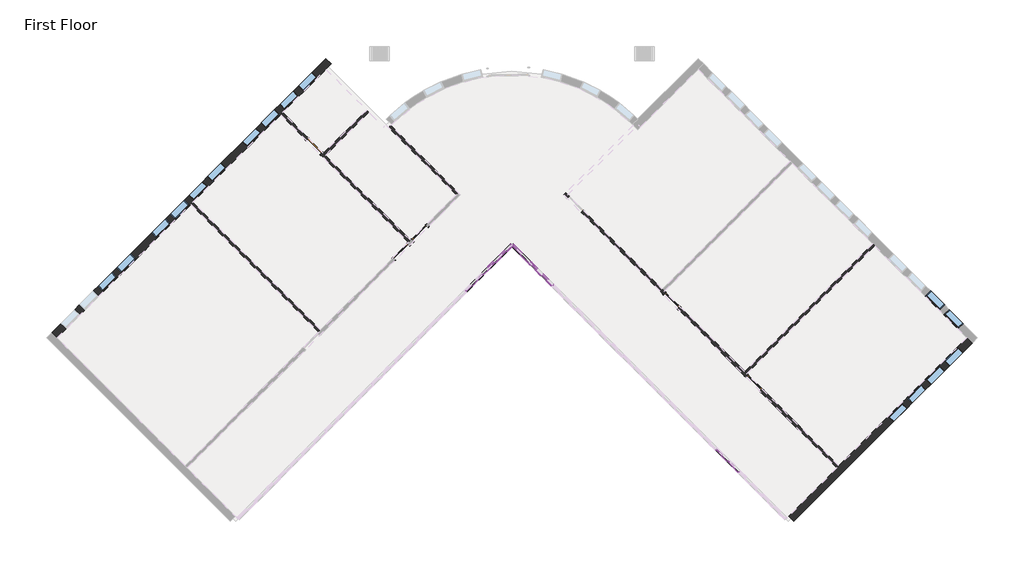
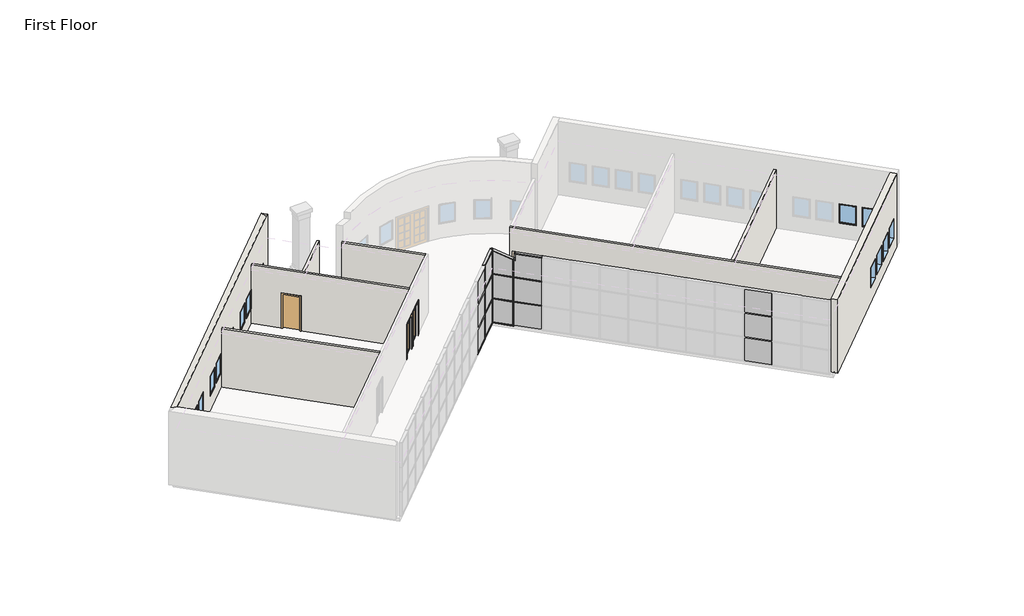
# One storey, part 3 of 4: 26 members, 16 windows, 15 plates, 8 walls, 5 doors.
"""IFC4 building model written with IfcOpenShell, lengths in millimetres."""

from ifc_helpers import new_model, si_unit, point, frame_2d, origin, origin_with_axes, place, context, project, spatial, polyline, circle_curve, trimmed, segment, composite_curve, outline, extrude, faceted_brep, transform, mapped, element, save
from components import m_single_flush_0915_x_2134mm_83e8e835, m_single_glass_1_0915_x_2134mm_fb3287b7, m_single_glass_1_0915_x_2134mm_4e5e1233, rectangular_mullion_50_x_150mm_339d4f99, rectangular_mullion_50_x_150mm_40297ad3, rectangular_mullion_50_x_150mm_ccbf48d0, rectangular_mullion_50_x_150mm_f494fff1, rectangular_mullion_50_x_150mm_97ff1a0c, rectangular_mullion_50_x_150mm_5da8f88f, rectangular_mullion_50_x_150mm_a1635f5b, rectangular_mullion_50_x_150mm_6261b450, rectangular_mullion_50_x_150mm_c13bad7a, rectangular_mullion_50_x_150mm_4d330a12, rectangular_mullion_50_x_150mm_3c20ccb2, rectangular_mullion_50_x_150mm_93975400, rectangular_mullion_50_x_150mm_0940c479, rectangular_mullion_50_x_150mm_75e70a66, rectangular_mullion_50_x_150mm_96b90bf1, rectangular_mullion_50_x_150mm_4247da93, system_panel_glazed_62d989f2, system_panel_glazed_a417ca2b, system_panel_glazed_b8bd361a, system_panel_glazed_7c4ff273, system_panel_glazed_0df73d5a, system_panel_glazed_71216330, system_panel_solid_0812dcd2, system_panel_solid_7096e89f, system_panel_solid_a570f427, system_panel_solid_49db0aee, system_panel_solid_a9fdfe61, m_fixed_0915_x_1220mm_bde29121, m_fixed_0915_x_1220mm_2a2509e7

model = new_model("IFC4")

# Units and contexts
model_context = context("Model", 3, world=origin())
ifc_project = project(units=[si_unit("LENGTHUNIT", "METRE", prefix="MILLI")], contexts=[model_context])

# Site, building, storey
site = spatial("IfcSite", under=ifc_project)
building = spatial("IfcBuilding", under=site)
storey = spatial("IfcBuildingStorey", under=building, Name="First Floor", Elevation=0.0)

# Doors
placement = place(None, origin())
m_single_flush_0915_x_2134mm_shape = m_single_flush_0915_x_2134mm_83e8e835(model_context)
element("IfcDoor", 1, ObjectType="M_Single-Flush : 0915 x 2134mm", at=placement, inside=storey, context=model_context, shape_type="MappedRepresentation", body=[
    mapped(m_single_flush_0915_x_2134mm_shape, transform((-10762.6979297, 6563.7995594, 0.0), x_axis=(0.7071067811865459, -0.7071067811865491, 0.0), y_axis=(0.7071067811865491, 0.7071067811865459, 0.0), z_axis=(0.0, 0.0, 1.0))),
])
m_single_glass_1_0915_x_2134mm_shape = m_single_glass_1_0915_x_2134mm_fb3287b7(model_context)
element("IfcDoor", 2, ObjectType="M_Single-Glass 1 : 0915 x 2134mm", at=placement, inside=storey, context=model_context, shape_type="MappedRepresentation", body=[
    mapped(m_single_glass_1_0915_x_2134mm_shape, transform((-6731.4821701, 1669.9135268, 0.0), x_axis=(0.7071067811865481, 0.7071067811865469, 0.0), y_axis=(-0.7071067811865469, 0.7071067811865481, 0.0), z_axis=(0.0, 0.0, 1.0))),
])
m_single_glass_1_0915_x_2134mm_2_shape = m_single_glass_1_0915_x_2134mm_4e5e1233(model_context)
element("IfcDoor", 3, ObjectType="M_Single-Glass 1 : 0915 x 2134mm", at=placement, inside=storey, context=model_context, shape_type="MappedRepresentation", body=[
    mapped(m_single_glass_1_0915_x_2134mm_2_shape, transform((-5868.8118971, 2532.5837999, 0.0), x_axis=(-0.7071067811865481, -0.7071067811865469, 0.0), y_axis=(0.7071067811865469, -0.7071067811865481, 0.0), z_axis=(0.0, 0.0, 1.0))),
])
element("IfcDoor", 4, ObjectType="M_Single-Glass 1 : 0915 x 2134mm", at=placement, inside=storey, context=model_context, shape_type="MappedRepresentation", body=[
    mapped(m_single_glass_1_0915_x_2134mm_2_shape, transform((5790.8485946, -591.9442895, 0.0), x_axis=(-0.7071067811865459, 0.7071067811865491, 0.0), y_axis=(-0.7071067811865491, -0.7071067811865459, 0.0), z_axis=(0.0, 0.0, 1.0))),
])
element("IfcDoor", 5, ObjectType="M_Single-Glass 1 : 0915 x 2134mm", at=placement, inside=storey, context=model_context, shape_type="MappedRepresentation", body=[
    mapped(m_single_glass_1_0915_x_2134mm_2_shape, transform((9606.3967859, -4407.4924808, 0.0), x_axis=(-0.7071067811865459, 0.7071067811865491, 0.0), y_axis=(-0.7071067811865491, -0.7071067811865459, 0.0), z_axis=(0.0, 0.0, 1.0))),
])

# Members
rectangular_mullion_50_x_150mm_shape = rectangular_mullion_50_x_150mm_339d4f99(model_context)
element("IfcMember", 6, ObjectType="Rectangular Mullion : 50 x 150mm", at=placement, inside=storey, context=model_context, shape_type="MappedRepresentation", body=[
    mapped(rectangular_mullion_50_x_150mm_shape, transform((-1636.601035, 1959.296977, 0.0), x_axis=(0.0, 0.0, -1.0), y_axis=(-0.7071067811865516, 0.7071067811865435, 0.0), z_axis=(0.7071067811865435, 0.7071067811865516, 0.0))),
])
rectangular_mullion_50_x_150mm_2_shape = rectangular_mullion_50_x_150mm_40297ad3(model_context)
element("IfcMember", 7, ObjectType="Rectangular Mullion : 50 x 150mm", at=placement, inside=storey, context=model_context, shape_type="MappedRepresentation", body=[
    mapped(rectangular_mullion_50_x_150mm_2_shape, transform((-2678.8764304, 917.0215815, 0.0), x_axis=(-0.7071067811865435, -0.7071067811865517, 0.0), y_axis=(-0.7071067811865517, 0.7071067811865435, 0.0), z_axis=(0.0, 0.0, -1.0))),
])
element("IfcMember", 8, ObjectType="Rectangular Mullion : 50 x 150mm", at=placement, inside=storey, context=model_context, shape_type="MappedRepresentation", body=[
    mapped(rectangular_mullion_50_x_150mm_2_shape, transform((-771.1023348, 1164.508955, 0.0), x_axis=(-0.7071067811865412, 0.7071067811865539, 0.0), y_axis=(0.7071067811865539, 0.7071067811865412, 0.0), z_axis=(0.0, 0.0, -1.0))),
])
rectangular_mullion_50_x_150mm_3_shape = rectangular_mullion_50_x_150mm_ccbf48d0(model_context)
element("IfcMember", 9, ObjectType="Rectangular Mullion : 50 x 150mm", at=placement, inside=storey, context=model_context, shape_type="MappedRepresentation", body=[
    mapped(rectangular_mullion_50_x_150mm_3_shape, transform((-2661.1987609, 934.6992511, 1524.0), x_axis=(0.0, 0.0, 1.0), y_axis=(-0.7071067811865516, 0.7071067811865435, 0.0), z_axis=(-0.7071067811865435, -0.7071067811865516, 0.0))),
])
element("IfcMember", 10, ObjectType="Rectangular Mullion : 50 x 150mm", at=placement, inside=storey, context=model_context, shape_type="MappedRepresentation", body=[
    mapped(rectangular_mullion_50_x_150mm_3_shape, transform((-2661.1987609, 934.6992511, 3048.0), x_axis=(0.0, 0.0, 1.0), y_axis=(-0.7071067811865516, 0.7071067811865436, 0.0), z_axis=(-0.7071067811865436, -0.7071067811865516, 0.0))),
])
rectangular_mullion_50_x_150mm_4_shape = rectangular_mullion_50_x_150mm_f494fff1(model_context)
element("IfcMember", 11, ObjectType="Rectangular Mullion : 50 x 150mm", at=placement, inside=storey, context=model_context, shape_type="MappedRepresentation", body=[
    mapped(rectangular_mullion_50_x_150mm_4_shape, transform((-753.4246653, 1146.8312854, 1524.0), x_axis=(0.0, 0.0, 1.0), y_axis=(0.7071067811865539, 0.7071067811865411, 0.0), z_axis=(-0.7071067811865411, 0.7071067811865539, 0.0))),
])
element("IfcMember", 12, ObjectType="Rectangular Mullion : 50 x 150mm", at=placement, inside=storey, context=model_context, shape_type="MappedRepresentation", body=[
    mapped(rectangular_mullion_50_x_150mm_4_shape, transform((-753.4246653, 1146.8312854, 3048.0), x_axis=(0.0, 0.0, 1.0), y_axis=(0.7071067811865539, 0.7071067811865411, 0.0), z_axis=(-0.7071067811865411, 0.7071067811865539, 0.0))),
])
rectangular_mullion_50_x_150mm_5_shape = rectangular_mullion_50_x_150mm_97ff1a0c(model_context)
element("IfcMember", 13, ObjectType="Rectangular Mullion : 50 x 150mm", at=placement, inside=storey, context=model_context, shape_type="MappedRepresentation", body=[
    mapped(rectangular_mullion_50_x_150mm_5_shape, transform((-1565.8903569, 1959.296977, 1524.0), x_axis=(0.0, 0.0, 1.0), y_axis=(0.707106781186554, 0.7071067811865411, 0.0), z_axis=(-0.7071067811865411, 0.707106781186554, 0.0))),
])
element("IfcMember", 14, ObjectType="Rectangular Mullion : 50 x 150mm", at=placement, inside=storey, context=model_context, shape_type="MappedRepresentation", body=[
    mapped(rectangular_mullion_50_x_150mm_5_shape, transform((-1565.8903569, 1959.296977, 3048.0), x_axis=(0.0, 0.0, 1.0), y_axis=(0.707106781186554, 0.7071067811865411, 0.0), z_axis=(-0.7071067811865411, 0.707106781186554, 0.0))),
])
rectangular_mullion_50_x_150mm_6_shape = rectangular_mullion_50_x_150mm_5da8f88f(model_context)
element("IfcMember", 15, ObjectType="Rectangular Mullion : 50 x 150mm", at=placement, inside=storey, context=model_context, shape_type="MappedRepresentation", body=[
    mapped(rectangular_mullion_50_x_150mm_6_shape, transform((-2696.5541, 899.343912, 0.0), x_axis=(0.0, 0.0, -1.0), y_axis=(-0.7071067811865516, 0.7071067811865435, 0.0), z_axis=(0.7071067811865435, 0.7071067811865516, 0.0))),
])
rectangular_mullion_50_x_150mm_7_shape = rectangular_mullion_50_x_150mm_a1635f5b(model_context)
element("IfcMember", 16, ObjectType="Rectangular Mullion : 50 x 150mm", at=placement, inside=storey, context=model_context, shape_type="MappedRepresentation", body=[
    mapped(rectangular_mullion_50_x_150mm_7_shape, transform((-788.7800043, 1182.1866245, 0.0), x_axis=(0.0, 0.0, -1.0), y_axis=(0.707106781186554, 0.707106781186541, 0.0), z_axis=(0.707106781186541, -0.707106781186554, 0.0))),
])
element("IfcMember", 17, ObjectType="Rectangular Mullion : 50 x 150mm", at=placement, inside=storey, context=model_context, shape_type="MappedRepresentation", body=[
    mapped(rectangular_mullion_50_x_150mm_shape, transform((-2661.1987609, 934.6992511, 4571.7250795), x_axis=(0.0, 0.0, 1.0), y_axis=(-0.7071067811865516, 0.7071067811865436, 0.0), z_axis=(-0.7071067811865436, -0.7071067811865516, 0.0))),
])
element("IfcMember", 18, ObjectType="Rectangular Mullion : 50 x 150mm", at=placement, inside=storey, context=model_context, shape_type="MappedRepresentation", body=[
    mapped(rectangular_mullion_50_x_150mm_2_shape, transform((-2678.8764304, 917.0215815, 1524.0), x_axis=(-0.7071067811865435, -0.7071067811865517, 0.0), y_axis=(-0.7071067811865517, 0.7071067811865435, 0.0), z_axis=(0.0, 0.0, -1.0))),
])
element("IfcMember", 19, ObjectType="Rectangular Mullion : 50 x 150mm", at=placement, inside=storey, context=model_context, shape_type="MappedRepresentation", body=[
    mapped(rectangular_mullion_50_x_150mm_2_shape, transform((-771.1023348, 1164.508955, 1524.0), x_axis=(-0.7071067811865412, 0.7071067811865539, 0.0), y_axis=(0.7071067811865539, 0.7071067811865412, 0.0), z_axis=(0.0, 0.0, -1.0))),
])
rectangular_mullion_50_x_150mm_8_shape = rectangular_mullion_50_x_150mm_6261b450(model_context)
element("IfcMember", 20, ObjectType="Rectangular Mullion : 50 x 150mm", at=placement, inside=storey, context=model_context, shape_type="MappedRepresentation", body=[
    mapped(rectangular_mullion_50_x_150mm_8_shape, transform((-2678.8764304, 917.0215815, 3048.0), x_axis=(-0.7071067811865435, -0.7071067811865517, 0.0), y_axis=(-0.7071067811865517, 0.7071067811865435, 0.0), z_axis=(0.0, 0.0, -1.0))),
])
rectangular_mullion_50_x_150mm_9_shape = rectangular_mullion_50_x_150mm_c13bad7a(model_context)
element("IfcMember", 21, ObjectType="Rectangular Mullion : 50 x 150mm", at=placement, inside=storey, context=model_context, shape_type="MappedRepresentation", body=[
    mapped(rectangular_mullion_50_x_150mm_9_shape, transform((-1601.2456959, 1994.6523161, 4571.7250795), x_axis=(0.7071067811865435, 0.7071067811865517, 0.0), y_axis=(-0.7071067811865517, 0.7071067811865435, 0.0), z_axis=(0.0, 0.0, 1.0))),
])
rectangular_mullion_50_x_150mm_10_shape = rectangular_mullion_50_x_150mm_4d330a12(model_context)
element("IfcMember", 22, ObjectType="Rectangular Mullion : 50 x 150mm", at=placement, inside=storey, context=model_context, shape_type="MappedRepresentation", body=[
    mapped(rectangular_mullion_50_x_150mm_10_shape, transform((-1601.2456959, 1994.6523161, 0.0), x_axis=(-0.7071067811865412, 0.7071067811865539, 0.0), y_axis=(0.7071067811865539, 0.7071067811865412, 0.0), z_axis=(0.0, 0.0, -1.0))),
])
element("IfcMember", 23, ObjectType="Rectangular Mullion : 50 x 150mm", at=placement, inside=storey, context=model_context, shape_type="MappedRepresentation", body=[
    mapped(rectangular_mullion_50_x_150mm_10_shape, transform((-1601.2456959, 1994.6523161, 1524.0), x_axis=(-0.7071067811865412, 0.7071067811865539, 0.0), y_axis=(0.7071067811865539, 0.7071067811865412, 0.0), z_axis=(0.0, 0.0, -1.0))),
])
element("IfcMember", 24, ObjectType="Rectangular Mullion : 50 x 150mm", at=placement, inside=storey, context=model_context, shape_type="MappedRepresentation", body=[
    mapped(rectangular_mullion_50_x_150mm_10_shape, transform((-1601.2456959, 1994.6523161, 1524.0), x_axis=(0.7071067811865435, 0.7071067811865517, 0.0), y_axis=(-0.7071067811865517, 0.7071067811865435, 0.0), z_axis=(0.0, 0.0, 1.0))),
])
element("IfcMember", 25, ObjectType="Rectangular Mullion : 50 x 150mm", at=placement, inside=storey, context=model_context, shape_type="MappedRepresentation", body=[
    mapped(rectangular_mullion_50_x_150mm_10_shape, transform((-1601.2456959, 1994.6523161, 3048.0), x_axis=(0.7071067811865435, 0.7071067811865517, 0.0), y_axis=(-0.7071067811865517, 0.7071067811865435, 0.0), z_axis=(0.0, 0.0, 1.0))),
])
rectangular_mullion_50_x_150mm_11_shape = rectangular_mullion_50_x_150mm_3c20ccb2(model_context)
element("IfcMember", 26, ObjectType="Rectangular Mullion : 50 x 150mm", at=placement, inside=storey, context=model_context, shape_type="MappedRepresentation", body=[
    mapped(rectangular_mullion_50_x_150mm_11_shape, transform((-703.2200838, 1096.626704, 4572.0), x_axis=(0.0, 0.0, 1.0), y_axis=(0.7071067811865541, 0.7071067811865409, 0.0), z_axis=(-0.7071067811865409, 0.7071067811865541, 0.0))),
])
rectangular_mullion_50_x_150mm_12_shape = rectangular_mullion_50_x_150mm_93975400(model_context)
element("IfcMember", 27, ObjectType="Rectangular Mullion : 50 x 150mm", at=placement, inside=storey, context=model_context, shape_type="MappedRepresentation", body=[
    mapped(rectangular_mullion_50_x_150mm_12_shape, transform((-738.5754229, 1131.982043, 4165.1754932), x_axis=(-0.7071067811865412, 0.7071067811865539, 0.0), y_axis=(0.7071067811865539, 0.7071067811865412, 0.0), z_axis=(0.0, 0.0, -1.0))),
])
rectangular_mullion_50_x_150mm_13_shape = rectangular_mullion_50_x_150mm_0940c479(model_context)
element("IfcMember", 28, ObjectType="Rectangular Mullion : 50 x 150mm", at=placement, inside=storey, context=model_context, shape_type="MappedRepresentation", body=[
    mapped(rectangular_mullion_50_x_150mm_13_shape, transform((-1601.2456959, 1994.6523161, 4571.7250795), x_axis=(0.2235488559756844, -0.2235488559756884, 0.9487106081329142), y_axis=(0.707106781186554, 0.7071067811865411, 0.0), z_axis=(-0.6708397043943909, 0.6708397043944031, 0.3161458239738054))),
])
rectangular_mullion_50_x_150mm_14_shape = rectangular_mullion_50_x_150mm_75e70a66(model_context)
element("IfcMember", 29, ObjectType="Rectangular Mullion : 50 x 150mm", at=placement, inside=storey, context=model_context, shape_type="MappedRepresentation", body=[
    mapped(rectangular_mullion_50_x_150mm_14_shape, transform((-771.1023348, 1164.508955, 4180.504412), x_axis=(0.2235488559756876, -0.2235488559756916, 0.9487106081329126), y_axis=(0.7071067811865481, 0.7071067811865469, 0.0), z_axis=(-0.6708397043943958, 0.6708397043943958, 0.3161458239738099))),
])
rectangular_mullion_50_x_150mm_15_shape = rectangular_mullion_50_x_150mm_96b90bf1(model_context)
element("IfcMember", 30, ObjectType="Rectangular Mullion : 50 x 150mm", at=placement, inside=storey, context=model_context, shape_type="MappedRepresentation", body=[
    mapped(rectangular_mullion_50_x_150mm_15_shape, transform((-771.1023348, 1164.508955, 3048.0), x_axis=(-0.7071067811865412, 0.7071067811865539, 0.0), y_axis=(0.7071067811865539, 0.7071067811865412, 0.0), z_axis=(0.0, 0.0, -1.0))),
])
rectangular_mullion_50_x_150mm_16_shape = rectangular_mullion_50_x_150mm_4247da93(model_context)
element("IfcMember", 31, ObjectType="Rectangular Mullion : 50 x 150mm", at=placement, inside=storey, context=model_context, shape_type="MappedRepresentation", body=[
    mapped(rectangular_mullion_50_x_150mm_16_shape, transform((-1601.2456959, 1994.6523161, 3048.0), x_axis=(-0.7071067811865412, 0.7071067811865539, 0.0), y_axis=(0.7071067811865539, 0.7071067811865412, 0.0), z_axis=(0.0, 0.0, -1.0))),
])

# Plates
system_panel_glazed_shape = system_panel_glazed_62d989f2(model_context)
element("IfcPlate", 32, ObjectType="System Panel : Glazed", at=placement, inside=storey, context=model_context, shape_type="MappedRepresentation", body=[
    mapped(system_panel_glazed_shape, transform((-2148.8998979, 1446.998114, 50.0), x_axis=(-0.7071067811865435, -0.7071067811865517, 0.0), y_axis=(0.7071067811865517, -0.7071067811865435, 0.0), z_axis=(0.0, 0.0, 1.0))),
])
system_panel_glazed_2_shape = system_panel_glazed_a417ca2b(model_context)
element("IfcPlate", 33, ObjectType="System Panel : Glazed", at=placement, inside=storey, context=model_context, shape_type="MappedRepresentation", body=[
    mapped(system_panel_glazed_2_shape, transform((8388.7589087, -7995.3522885, 50.0), x_axis=(-0.7071067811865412, 0.7071067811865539, 0.0), y_axis=(-0.7071067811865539, -0.7071067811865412, 0.0), z_axis=(0.0, 0.0, 1.0))),
])
element("IfcPlate", 34, ObjectType="System Panel : Glazed", at=placement, inside=storey, context=model_context, shape_type="MappedRepresentation", body=[
    mapped(system_panel_glazed_2_shape, transform((-3217.6917977, 378.2062143, 50.0), x_axis=(-0.7071067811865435, -0.7071067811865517, 0.0), y_axis=(0.7071067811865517, -0.7071067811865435, 0.0), z_axis=(0.0, 0.0, 1.0))),
])
element("IfcPlate", 35, ObjectType="System Panel : Glazed", at=placement, inside=storey, context=model_context, shape_type="MappedRepresentation", body=[
    mapped(system_panel_glazed_2_shape, transform((-232.2869675, 625.6935877, 50.0), x_axis=(-0.7071067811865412, 0.7071067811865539, 0.0), y_axis=(-0.7071067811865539, -0.7071067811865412, 0.0), z_axis=(0.0, 0.0, 1.0))),
])
system_panel_glazed_3_shape = system_panel_glazed_b8bd361a(model_context)
element("IfcPlate", 36, ObjectType="System Panel : Glazed", at=placement, inside=storey, context=model_context, shape_type="MappedRepresentation", body=[
    mapped(system_panel_glazed_3_shape, transform((-2148.8998979, 1446.998114, 1549.0), x_axis=(-0.7071067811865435, -0.7071067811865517, 0.0), y_axis=(0.7071067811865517, -0.7071067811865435, 0.0), z_axis=(0.0, 0.0, 1.0))),
])
system_panel_glazed_4_shape = system_panel_glazed_7c4ff273(model_context)
element("IfcPlate", 37, ObjectType="System Panel : Glazed", at=placement, inside=storey, context=model_context, shape_type="MappedRepresentation", body=[
    mapped(system_panel_glazed_4_shape, transform((8388.7589087, -7995.3522885, 1549.0), x_axis=(-0.7071067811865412, 0.7071067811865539, 0.0), y_axis=(-0.7071067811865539, -0.7071067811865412, 0.0), z_axis=(0.0, 0.0, 1.0))),
])
element("IfcPlate", 38, ObjectType="System Panel : Glazed", at=placement, inside=storey, context=model_context, shape_type="MappedRepresentation", body=[
    mapped(system_panel_glazed_4_shape, transform((-3217.6917977, 378.2062143, 1549.0), x_axis=(-0.7071067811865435, -0.7071067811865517, 0.0), y_axis=(0.7071067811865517, -0.7071067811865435, 0.0), z_axis=(0.0, 0.0, 1.0))),
])
element("IfcPlate", 39, ObjectType="System Panel : Glazed", at=placement, inside=storey, context=model_context, shape_type="MappedRepresentation", body=[
    mapped(system_panel_glazed_4_shape, transform((-232.2869675, 625.6935877, 1549.0), x_axis=(-0.7071067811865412, 0.7071067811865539, 0.0), y_axis=(-0.7071067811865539, -0.7071067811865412, 0.0), z_axis=(0.0, 0.0, 1.0))),
])
system_panel_glazed_5_shape = system_panel_glazed_0df73d5a(model_context)
element("IfcPlate", 40, ObjectType="System Panel : Glazed", at=placement, inside=storey, context=model_context, shape_type="MappedRepresentation", body=[
    mapped(system_panel_glazed_5_shape, transform((-1177.3351806, 1570.7418008, 50.0), x_axis=(-0.7071067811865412, 0.7071067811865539, 0.0), y_axis=(-0.7071067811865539, -0.7071067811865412, 0.0), z_axis=(0.0, 0.0, 1.0))),
])
system_panel_glazed_6_shape = system_panel_glazed_71216330(model_context)
element("IfcPlate", 41, ObjectType="System Panel : Glazed", at=placement, inside=storey, context=model_context, shape_type="MappedRepresentation", body=[
    mapped(system_panel_glazed_6_shape, transform((-1177.3351806, 1570.7418008, 1549.0), x_axis=(-0.7071067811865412, 0.7071067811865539, 0.0), y_axis=(-0.7071067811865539, -0.7071067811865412, 0.0), z_axis=(0.0, 0.0, 1.0))),
])
system_panel_solid_shape = system_panel_solid_0812dcd2(model_context)
element("IfcPlate", 42, ObjectType="System Panel : Solid", at=placement, inside=storey, context=model_context, shape_type="MappedRepresentation", body=[
    mapped(system_panel_solid_shape, transform((-2148.8998979, 1446.998114, 3073.0), x_axis=(-0.7071067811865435, -0.7071067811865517, 0.0), y_axis=(0.7071067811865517, -0.7071067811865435, 0.0), z_axis=(0.0, 0.0, 1.0))),
])
system_panel_solid_2_shape = system_panel_solid_7096e89f(model_context)
element("IfcPlate", 43, ObjectType="System Panel : Solid", at=placement, inside=storey, context=model_context, shape_type="MappedRepresentation", body=[
    mapped(system_panel_solid_2_shape, transform((-3217.6917977, 378.2062143, 3073.0), x_axis=(-0.7071067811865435, -0.7071067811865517, 0.0), y_axis=(0.7071067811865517, -0.7071067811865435, 0.0), z_axis=(0.0, 0.0, 1.0))),
])
system_panel_solid_3_shape = system_panel_solid_a570f427(model_context)
element("IfcPlate", 44, ObjectType="System Panel : Solid", at=placement, inside=storey, context=model_context, shape_type="MappedRepresentation", body=[
    mapped(system_panel_solid_3_shape, transform((8388.7589087, -7995.3522885, 3073.0), x_axis=(-0.7071067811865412, 0.7071067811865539, 0.0), y_axis=(-0.7071067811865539, -0.7071067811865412, 0.0), z_axis=(0.0, 0.0, 1.0))),
])
system_panel_solid_4_shape = system_panel_solid_49db0aee(model_context)
element("IfcPlate", 45, ObjectType="System Panel : Solid", at=placement, inside=storey, context=model_context, shape_type="MappedRepresentation", body=[
    mapped(system_panel_solid_4_shape, transform((-232.2869675, 625.6935877, 3073.0), x_axis=(-0.7071067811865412, 0.7071067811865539, 0.0), y_axis=(-0.7071067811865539, -0.7071067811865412, 0.0), z_axis=(0.0, 0.0, 1.0))),
])
system_panel_solid_5_shape = system_panel_solid_a9fdfe61(model_context)
element("IfcPlate", 46, ObjectType="System Panel : Solid", at=placement, inside=storey, context=model_context, shape_type="MappedRepresentation", body=[
    mapped(system_panel_solid_5_shape, transform((-1177.3351806, 1570.7418008, 3073.0), x_axis=(-0.7071067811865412, 0.7071067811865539, 0.0), y_axis=(-0.7071067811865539, -0.7071067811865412, 0.0), z_axis=(0.0, 0.0, 1.0))),
])

# Walls
element("IfcWall", 47, ObjectType="Exterior - Brick on Mtl. Stud", at=placement, inside=storey, context=model_context, shape_type="Brep", body=[
    faceted_brep([(19456.3942478, -2315.870622, 0.0), (13534.5517321, -8237.7131378, 0.0), (13436.6174429, -8335.647427, 0.0), (11206.5794317, -10565.6854381, 0.0), (11206.5794317, -10565.6854381, 4572.0), (19456.3942478, -2315.870622, 4572.0), (16455.7866219, -5316.478248, 915.0), (16455.7866219, -5316.478248, 2135.0), (15808.7839171, -5963.4809528, 2135.0), (15808.7839171, -5963.4809528, 915.0), (17317.7497881, -4454.5150817, 915.0), (17317.7497881, -4454.5150817, 2135.0), (16670.7470833, -5101.5177865, 2135.0), (16670.7470833, -5101.5177865, 915.0), (18179.7129544, -3592.5519155, 915.0), (18179.7129544, -3592.5519155, 2135.0), (17532.7102496, -4239.5546203, 2135.0), (17532.7102496, -4239.5546203, 915.0), (19041.6761207, -2730.5887492, 915.0), (19041.6761207, -2730.5887492, 2135.0), (18394.6734159, -3377.591454, 2135.0), (18394.6734159, -3377.591454, 915.0), (19703.8816212, -2563.3579955, 0.0), (19703.8816212, -2563.3579955, 4572.0), (11454.0668051, -10813.1728116, 4572.0), (11454.0668051, -10813.1728116, 0.0), (16703.2739953, -5563.9656214, 915.0), (16056.2712905, -6210.9683262, 915.0), (16056.2712905, -6210.9683262, 2135.0), (16703.2739953, -5563.9656214, 2135.0), (17565.2371615, -4702.0024552, 915.0), (16918.2344568, -5349.0051599, 915.0), (16918.2344568, -5349.0051599, 2135.0), (17565.2371615, -4702.0024552, 2135.0), (18427.2003278, -3840.0392889, 915.0), (17780.197623, -4487.0419937, 915.0), (17780.197623, -4487.0419937, 2135.0), (18427.2003278, -3840.0392889, 2135.0), (19289.1634941, -2978.0761226, 915.0), (18642.1607893, -3625.0788274, 915.0), (18642.1607893, -3625.0788274, 2135.0), (19289.1634941, -2978.0761226, 2135.0)], [[[0, 1, 2, 3, 4, 5], [6, 7, 8, 9], [10, 11, 12, 13], [14, 15, 16, 17], [18, 19, 20, 21]], [[22, 23, 24, 25], [26, 27, 28, 29], [30, 31, 32, 33], [34, 35, 36, 37], [38, 39, 40, 41]], [[3, 2, 1, 0, 22, 25]], [[4, 3, 25, 24]], [[5, 4, 24, 23]], [[0, 5, 23, 22]], [[7, 6, 26, 29]], [[8, 7, 29, 28]], [[9, 8, 28, 27]], [[6, 9, 27, 26]], [[11, 10, 30, 33]], [[12, 11, 33, 32]], [[13, 12, 32, 31]], [[10, 13, 31, 30]], [[15, 14, 34, 37]], [[16, 15, 37, 36]], [[17, 16, 36, 35]], [[14, 17, 35, 34]], [[19, 18, 38, 41]], [[20, 19, 41, 40]], [[21, 20, 40, 39]], [[18, 21, 39, 38]]]),
])
element("IfcWall", 48, ObjectType="Exterior - Brick on Mtl. Stud", at=placement, inside=storey, context=model_context, shape_type="Brep", body=[
    faceted_brep([(-22658.8856396, -2315.870622, 0.0), (-16473.6458479, 3869.3691697, 0.0), (-16375.7115587, 3967.3034589, 0.0), (-12319.9238385, 8023.0911791, 0.0), (-12221.9895493, 8121.0254683, 0.0), (-10222.2915721, 10120.7234455, 0.0), (-10105.6189532, 10237.3960644, 0.0), (-9974.8041987, 10368.2108189, 0.0), (-9974.8041987, 10368.2108189, 4571.7250795), (-10222.2915721, 10120.7234455, 4688.3581575), (-22658.8856396, -2315.870622, 4688.3581575), (-21597.1648077, -1254.1497901, 915.0), (-22244.1675125, -1901.1524949, 915.0), (-22244.1675125, -1901.1524949, 2135.0), (-21597.1648077, -1254.1497901, 2135.0), (-20735.2016414, -392.1866238, 915.0), (-21382.2043462, -1039.1893286, 915.0), (-21382.2043462, -1039.1893286, 2135.0), (-20735.2016414, -392.1866238, 2135.0), (-19011.2753089, 1331.7397087, 915.0), (-19658.2780137, 684.7370039, 915.0), (-19658.2780137, 684.7370039, 2135.0), (-19011.2753089, 1331.7397087, 2135.0), (-19873.2384752, 469.7765424, 915.0), (-20520.2411799, -177.2261623, 915.0), (-20520.2411799, -177.2261623, 2135.0), (-19873.2384752, 469.7765424, 2135.0), (-13838.0820977, 6504.9329199, 915.0), (-13838.0820977, 6504.9329199, 2135.0), (-13191.0793929, 7151.9356247, 2135.0), (-13191.0793929, 7151.9356247, 915.0), (-12976.1189315, 7366.8960861, 915.0), (-12976.1189315, 7366.8960861, 2135.0), (-12329.1162267, 8013.8987909, 2135.0), (-12329.1162267, 8013.8987909, 915.0), (-12114.1557652, 8228.8592524, 915.0), (-12114.1557652, 8228.8592524, 2135.0), (-11467.1530604, 8875.8619572, 2135.0), (-11467.1530604, 8875.8619572, 915.0), (-11252.1925989, 9090.8224187, 915.0), (-11252.1925989, 9090.8224187, 2135.0), (-10605.1898941, 9737.8251235, 2135.0), (-10605.1898941, 9737.8251235, 915.0), (-14808.2326015, 5534.7824161, 915.0), (-15455.2353063, 4887.7797113, 915.0), (-15455.2353063, 4887.7797113, 2135.0), (-14808.2326015, 5534.7824161, 2135.0), (-15670.1957678, 4672.8192498, 915.0), (-16317.1984726, 4025.816545, 915.0), (-16317.1984726, 4025.816545, 2135.0), (-15670.1957678, 4672.8192498, 2135.0), (-16532.1589341, 3810.8560836, 915.0), (-17179.1616388, 3163.8533788, 915.0), (-17179.1616388, 3163.8533788, 2135.0), (-16532.1589341, 3810.8560836, 2135.0), (-17394.1221003, 2948.8929173, 915.0), (-18041.1248051, 2301.8902125, 915.0), (-18041.1248051, 2301.8902125, 2135.0), (-17394.1221003, 2948.8929173, 2135.0), (-22906.3730131, -2068.3832486, 0.0), (-22906.3730131, -2068.3832486, 4571.7250795), (-10222.2915721, 10615.6981923, 4571.7250795), (-10222.2915721, 10615.6981923, 0.0), (-10353.1063267, 10484.8834378, 0.0), (-21844.6521811, -1006.6624167, 915.0), (-21844.6521811, -1006.6624167, 2135.0), (-22491.6548859, -1653.6651215, 2135.0), (-22491.6548859, -1653.6651215, 915.0), (-20982.6890148, -144.6992504, 915.0), (-20982.6890148, -144.6992504, 2135.0), (-21629.6917196, -791.7019552, 2135.0), (-21629.6917196, -791.7019552, 915.0), (-19258.7626823, 1579.2270821, 915.0), (-19258.7626823, 1579.2270821, 2135.0), (-19905.7653871, 932.2243773, 2135.0), (-19905.7653871, 932.2243773, 915.0), (-20120.7258486, 717.2639159, 915.0), (-20120.7258486, 717.2639159, 2135.0), (-20767.7285534, 70.2612111, 2135.0), (-20767.7285534, 70.2612111, 915.0), (-14085.5694711, 6752.4202933, 915.0), (-13438.5667664, 7399.4229981, 915.0), (-13438.5667664, 7399.4229981, 2135.0), (-14085.5694711, 6752.4202933, 2135.0), (-13223.6063049, 7614.3834596, 915.0), (-12576.6036001, 8261.3861643, 915.0), (-12576.6036001, 8261.3861643, 2135.0), (-13223.6063049, 7614.3834596, 2135.0), (-12361.6431386, 8476.3466258, 915.0), (-11714.6404338, 9123.3493306, 915.0), (-11714.6404338, 9123.3493306, 2135.0), (-12361.6431386, 8476.3466258, 2135.0), (-11499.6799723, 9338.3097921, 915.0), (-10852.6772676, 9985.3124969, 915.0), (-10852.6772676, 9985.3124969, 2135.0), (-11499.6799723, 9338.3097921, 2135.0), (-15055.7199749, 5782.2697895, 915.0), (-15055.7199749, 5782.2697895, 2135.0), (-15702.7226797, 5135.2670847, 2135.0), (-15702.7226797, 5135.2670847, 915.0), (-15917.6831412, 4920.3066232, 915.0), (-15917.6831412, 4920.3066232, 2135.0), (-16564.685846, 4273.3039184, 2135.0), (-16564.685846, 4273.3039184, 915.0), (-16779.6463075, 4058.343457, 915.0), (-16779.6463075, 4058.343457, 2135.0), (-17426.6490123, 3411.3407522, 2135.0), (-17426.6490123, 3411.3407522, 915.0), (-17641.6094737, 3196.3802907, 915.0), (-17641.6094737, 3196.3802907, 2135.0), (-18288.6121785, 2549.3775859, 2135.0), (-18288.6121785, 2549.3775859, 915.0), (-22775.5582585, -2199.1980031, 0.0), (-10091.4768176, 10484.8834378, 0.0), (-10222.2915721, 10354.0686833, 0.0)], [[[0, 1, 2, 3, 4, 5, 6, 7, 8, 9, 10], [11, 12, 13, 14], [15, 16, 17, 18], [19, 20, 21, 22], [23, 24, 25, 26], [27, 28, 29, 30], [31, 32, 33, 34], [35, 36, 37, 38], [39, 40, 41, 42], [43, 44, 45, 46], [47, 48, 49, 50], [51, 52, 53, 54], [55, 56, 57, 58]], [[59, 60, 61, 62, 63], [64, 65, 66, 67], [68, 69, 70, 71], [72, 73, 74, 75], [76, 77, 78, 79], [80, 81, 82, 83], [84, 85, 86, 87], [88, 89, 90, 91], [92, 93, 94, 95], [96, 97, 98, 99], [100, 101, 102, 103], [104, 105, 106, 107], [108, 109, 110, 111]], [[0, 10, 60, 59, 112]], [[8, 7, 113, 62, 61]], [[65, 64, 11, 14]], [[66, 65, 14, 13]], [[67, 66, 13, 12]], [[64, 67, 12, 11]], [[69, 68, 15, 18]], [[70, 69, 18, 17]], [[71, 70, 17, 16]], [[68, 71, 16, 15]], [[73, 72, 19, 22]], [[74, 73, 22, 21]], [[75, 74, 21, 20]], [[72, 75, 20, 19]], [[77, 76, 23, 26]], [[78, 77, 26, 25]], [[79, 78, 25, 24]], [[76, 79, 24, 23]], [[28, 27, 80, 83]], [[29, 28, 83, 82]], [[30, 29, 82, 81]], [[27, 30, 81, 80]], [[32, 31, 84, 87]], [[33, 32, 87, 86]], [[34, 33, 86, 85]], [[31, 34, 85, 84]], [[36, 35, 88, 91]], [[37, 36, 91, 90]], [[38, 37, 90, 89]], [[35, 38, 89, 88]], [[40, 39, 92, 95]], [[41, 40, 95, 94]], [[42, 41, 94, 93]], [[39, 42, 93, 92]], [[97, 96, 43, 46]], [[98, 97, 46, 45]], [[99, 98, 45, 44]], [[96, 99, 44, 43]], [[101, 100, 47, 50]], [[102, 101, 50, 49]], [[103, 102, 49, 48]], [[100, 103, 48, 47]], [[105, 104, 51, 54]], [[106, 105, 54, 53]], [[107, 106, 53, 52]], [[104, 107, 52, 51]], [[109, 108, 55, 58]], [[110, 109, 58, 57]], [[111, 110, 57, 56]], [[108, 111, 56, 55]], [[10, 9, 61, 60]], [[9, 8, 61]], [[7, 6, 114, 113]], [[112, 59, 63, 114]], [[63, 62, 113, 114]], [[6, 5, 4, 3, 2, 1, 0, 112, 114]]]),
])
element("IfcWall", 49, ObjectType="Interior - 138mm Partition (1-hr)", at=placement, inside=storey, context=model_context, shape_type="SweptSolid", body=[
    extrude(outline(composite_curve([segment(polyline([(-7216.038281, 7523.5314273), (-4095.9184199, 4403.4115662), (-4193.8527091, 4305.477277), (-7312.3566207, 7423.9811885)]), True, "CONTINUOUS"), segment(trimmed(circle_curve(frame_2d((-1601.2456959, 1994.6523161)), 7880.0), [point((-7312.3566207, 7423.9811885))], [point((-7216.038281, 7523.5314273))], False, "CARTESIAN"), True, "CONTINUOUS")], self_intersect=False)), origin_with_axes(), (0.0, 0.0, 1.0), 3658.0),
])
element("IfcWall", 50, ObjectType="Interior - 138mm Partition (1-hr)", at=placement, inside=storey, context=model_context, shape_type="Brep", body=[
    faceted_brep([(-6300.1470336, 2199.1829525, 0.0), (-10233.4285039, 6132.4644229, 0.0), (-10331.3627931, 6230.3987121, 0.0), (-10390.2294327, 6289.2653516, 0.0), (-10390.2294327, 6289.2653516, 2134.0), (-11037.2321375, 6936.2680564, 2134.0), (-11037.2321375, 6936.2680564, 0.0), (-12221.9895493, 8121.0254683, 0.0), (-12221.9895493, 8121.0254683, 3658.0), (-10331.3627931, 6230.3987121, 3658.0), (-10233.4285039, 6132.4644229, 3658.0), (-6300.1470336, 2199.1829525, 3658.0), (-10488.1637219, 6191.3310624, 2134.0), (-10488.1637219, 6191.3310624, 0.0), (-6398.0813228, 2101.2486633, 0.0), (-6398.0813228, 2101.2486633, 3658.0), (-12319.9238385, 8023.0911791, 3658.0), (-12319.9238385, 8023.0911791, 0.0), (-11135.1664266, 6838.3337672, 0.0), (-11135.1664266, 6838.3337672, 2134.0)], [[[0, 1, 2, 3, 4, 5, 6, 7, 8, 9, 10, 11]], [[12, 13, 14, 15, 16, 17, 18, 19]], [[18, 17, 7, 6]], [[14, 13, 3, 2, 1, 0]], [[11, 10, 9, 8, 16, 15]], [[8, 7, 17, 16]], [[0, 11, 15, 14]], [[4, 3, 13, 12]], [[5, 4, 12, 19]], [[6, 5, 19, 18]]]),
])
element("IfcWall", 51, ObjectType="Interior - 138mm Partition (1-hr)", at=placement, inside=storey, context=model_context, shape_type="SweptSolid", body=[
    extrude(outline(polyline([(-8233.7305267, 8132.1624001), (-10233.4285039, 6132.4644229), (-10331.3627931, 6230.3987121), (-8331.6648159, 8230.0966893), (-8233.7305267, 8132.1624001)])), origin_with_axes(), (0.0, 0.0, 1.0), 3658.0),
])
element("IfcWall", 52, ObjectType="Interior - 138mm Partition (1-hr)", at=placement, inside=storey, context=model_context, shape_type="SweptSolid", body=[
    extrude(outline(polyline([(-16375.7115587, 3967.3034589), (-10453.869043, -1954.5390569), (-10551.8033322, -2052.473346), (-16473.6458479, 3869.3691697), (-16375.7115587, 3967.3034589)])), origin_with_axes(), (0.0, 0.0, 1.0), 3658.0),
])
element("IfcWall", 53, ObjectType="Interior - 138mm Partition (1-hr)", at=placement, inside=storey, context=model_context, shape_type="Brep", body=[
    faceted_brep([(9331.8625781, -4035.0239838, 2134.0), (9331.8625781, -4035.0239838, 0.0), (9272.9959386, -3976.1573443, 0.0), (9175.0616494, -3878.2230551, 0.0), (6163.3170916, -866.4784973, 0.0), (6163.3170916, -866.4784973, 2134.0), (5516.3143868, -219.4757925, 2134.0), (5516.3143868, -219.4757925, 0.0), (5457.4477473, -160.609153, 0.0), (5359.5134581, -62.6748638, 0.0), (1697.2306616, 3599.6079327, 0.0), (1697.2306616, 3599.6079327, 2134.0), (1050.2279568, 4246.6106375, 2134.0), (1050.2279568, 4246.6106375, 0.0), (991.3613173, 4305.477277, 0.0), (893.4270281, 4403.4115662, 0.0), (893.4270281, 4403.4115662, 3658.0), (991.3613173, 4305.477277, 3658.0), (5359.5134581, -62.6748638, 3658.0), (5457.4477473, -160.609153, 3658.0), (9175.0616494, -3878.2230551, 3658.0), (9272.9959386, -3976.1573443, 3658.0), (13534.5517321, -8237.7131378, 3658.0), (13534.5517321, -8237.7131378, 0.0), (9978.8652829, -4682.0266886, 0.0), (9978.8652829, -4682.0266886, 2134.0), (6065.3828024, -964.4127865, 0.0), (9233.9282889, -4132.958273, 0.0), (9233.9282889, -4132.958273, 2134.0), (9880.9309937, -4779.9609778, 2134.0), (9880.9309937, -4779.9609778, 0.0), (13436.6174429, -8335.647427, 0.0), (13436.6174429, -8335.647427, 3658.0), (795.4927389, 4305.477277, 3658.0), (795.4927389, 4305.477277, 0.0), (952.2936677, 4148.6763483, 0.0), (952.2936677, 4148.6763483, 2134.0), (1599.2963724, 3501.6736435, 2134.0), (1599.2963724, 3501.6736435, 0.0), (5418.3800976, -317.4100817, 0.0), (5418.3800976, -317.4100817, 2134.0), (6065.3828024, -964.4127865, 2134.0)], [[[0, 1, 2, 3, 4, 5, 6, 7, 8, 9, 10, 11, 12, 13, 14, 15, 16, 17, 18, 19, 20, 21, 22, 23, 24, 25]], [[26, 27, 28, 29, 30, 31, 32, 33, 34, 35, 36, 37, 38, 39, 40, 41]], [[15, 14, 13, 35, 34]], [[10, 9, 8, 7, 39, 38]], [[24, 23, 31, 30]], [[4, 3, 2, 1, 27, 26]], [[22, 21, 20, 19, 18, 17, 16, 33, 32]], [[23, 22, 32, 31]], [[16, 15, 34, 33]], [[36, 35, 13, 12]], [[37, 36, 12, 11]], [[38, 37, 11, 10]], [[40, 39, 7, 6]], [[41, 40, 6, 5]], [[26, 41, 5, 4]], [[28, 27, 1, 0]], [[29, 28, 0, 25]], [[30, 29, 25, 24]]]),
])
element("IfcWall", 54, ObjectType="Interior - 138mm Partition (1-hr)", at=placement, inside=storey, context=model_context, shape_type="SweptSolid", body=[
    extrude(outline(polyline([(15194.8384543, 1945.6851715), (9272.9959386, -3976.1573443), (9175.0616494, -3878.2230551), (15096.9041651, 2043.6194607), (15194.8384543, 1945.6851715)])), origin_with_axes(), (0.0, 0.0, 1.0), 3658.0),
])

# Windows
m_fixed_0915_x_1220mm_shape = m_fixed_0915_x_1220mm_bde29121(model_context)
element("IfcWindow", 55, ObjectType="M_Fixed : 0915 x 1220mm", at=placement, inside=storey, context=model_context, shape_type="MappedRepresentation", body=[
    mapped(m_fixed_0915_x_1220mm_shape, transform((18851.1108431, -1444.7150676, 0.0), x_axis=(-0.7071067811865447, 0.7071067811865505, 0.0), y_axis=(-0.7071067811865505, -0.7071067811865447, 0.0), z_axis=(0.0, 0.0, 1.0))),
])
element("IfcWindow", 56, ObjectType="M_Fixed : 0915 x 1220mm", at=placement, inside=storey, context=model_context, shape_type="MappedRepresentation", body=[
    mapped(m_fixed_0915_x_1220mm_shape, transform((17989.1476769, -582.7519014, 0.0), x_axis=(-0.7071067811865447, 0.7071067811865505, 0.0), y_axis=(-0.7071067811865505, -0.7071067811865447, 0.0), z_axis=(0.0, 0.0, 1.0))),
])
element("IfcWindow", 57, ObjectType="M_Fixed : 0915 x 1220mm", at=placement, inside=storey, context=model_context, shape_type="MappedRepresentation", body=[
    mapped(m_fixed_0915_x_1220mm_shape, transform((-20329.6759024, 279.2112649, 0.0), x_axis=(-0.7071067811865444, -0.7071067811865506, 0.0), y_axis=(0.7071067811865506, -0.7071067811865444, 0.0), z_axis=(0.0, 0.0, 1.0))),
])
element("IfcWindow", 58, ObjectType="M_Fixed : 0915 x 1220mm", at=placement, inside=storey, context=model_context, shape_type="MappedRepresentation", body=[
    mapped(m_fixed_0915_x_1220mm_shape, transform((-19467.7127362, 1141.1744312, 0.0), x_axis=(-0.7071067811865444, -0.7071067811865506, 0.0), y_axis=(0.7071067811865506, -0.7071067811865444, 0.0), z_axis=(0.0, 0.0, 1.0))),
])
element("IfcWindow", 59, ObjectType="M_Fixed : 0915 x 1220mm", at=placement, inside=storey, context=model_context, shape_type="MappedRepresentation", body=[
    mapped(m_fixed_0915_x_1220mm_shape, transform((-17850.5595276, 2758.3276398, 0.0), x_axis=(-0.7071067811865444, -0.7071067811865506, 0.0), y_axis=(0.7071067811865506, -0.7071067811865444, 0.0), z_axis=(0.0, 0.0, 1.0))),
])
element("IfcWindow", 60, ObjectType="M_Fixed : 0915 x 1220mm", at=placement, inside=storey, context=model_context, shape_type="MappedRepresentation", body=[
    mapped(m_fixed_0915_x_1220mm_shape, transform((-16988.5963613, 3620.290806, 0.0), x_axis=(-0.7071067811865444, -0.7071067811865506, 0.0), y_axis=(0.7071067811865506, -0.7071067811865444, 0.0), z_axis=(0.0, 0.0, 1.0))),
])
element("IfcWindow", 61, ObjectType="M_Fixed : 0915 x 1220mm", at=placement, inside=storey, context=model_context, shape_type="MappedRepresentation", body=[
    mapped(m_fixed_0915_x_1220mm_shape, transform((-16126.633195, 4482.2539723, 0.0), x_axis=(-0.7071067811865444, -0.7071067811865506, 0.0), y_axis=(0.7071067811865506, -0.7071067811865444, 0.0), z_axis=(0.0, 0.0, 1.0))),
])
element("IfcWindow", 62, ObjectType="M_Fixed : 0915 x 1220mm", at=placement, inside=storey, context=model_context, shape_type="MappedRepresentation", body=[
    mapped(m_fixed_0915_x_1220mm_shape, transform((-15264.6700288, 5344.2171386, 0.0), x_axis=(-0.7071067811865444, -0.7071067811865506, 0.0), y_axis=(0.7071067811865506, -0.7071067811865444, 0.0), z_axis=(0.0, 0.0, 1.0))),
])
m_fixed_0915_x_1220mm_2_shape = m_fixed_0915_x_1220mm_2a2509e7(model_context)
element("IfcWindow", 63, ObjectType="M_Fixed : 0915 x 1220mm", at=placement, inside=storey, context=model_context, shape_type="MappedRepresentation", body=[
    mapped(m_fixed_0915_x_1220mm_2_shape, transform((18851.1108431, -3187.0261765, 0.0), x_axis=(-0.7071067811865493, -0.7071067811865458, 0.0), y_axis=(0.7071067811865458, -0.7071067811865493, 0.0), z_axis=(0.0, 0.0, 1.0))),
])
element("IfcWindow", 64, ObjectType="M_Fixed : 0915 x 1220mm", at=placement, inside=storey, context=model_context, shape_type="MappedRepresentation", body=[
    mapped(m_fixed_0915_x_1220mm_2_shape, transform((17989.1476769, -4048.9893427, 0.0), x_axis=(-0.7071067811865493, -0.7071067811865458, 0.0), y_axis=(0.7071067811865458, -0.7071067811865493, 0.0), z_axis=(0.0, 0.0, 1.0))),
])
element("IfcWindow", 65, ObjectType="M_Fixed : 0915 x 1220mm", at=placement, inside=storey, context=model_context, shape_type="MappedRepresentation", body=[
    mapped(m_fixed_0915_x_1220mm_2_shape, transform((17127.1845106, -4910.952509, 0.0), x_axis=(-0.7071067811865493, -0.7071067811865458, 0.0), y_axis=(0.7071067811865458, -0.7071067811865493, 0.0), z_axis=(0.0, 0.0, 1.0))),
])
element("IfcWindow", 66, ObjectType="M_Fixed : 0915 x 1220mm", at=placement, inside=storey, context=model_context, shape_type="MappedRepresentation", body=[
    mapped(m_fixed_0915_x_1220mm_2_shape, transform((16265.2213443, -5772.9156753, 0.0), x_axis=(-0.7071067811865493, -0.7071067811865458, 0.0), y_axis=(0.7071067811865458, -0.7071067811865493, 0.0), z_axis=(0.0, 0.0, 1.0))),
])
element("IfcWindow", 67, ObjectType="M_Fixed : 0915 x 1220mm", at=placement, inside=storey, context=model_context, shape_type="MappedRepresentation", body=[
    mapped(m_fixed_0915_x_1220mm_2_shape, transform((-11061.6273214, 9547.2598459, 0.0), x_axis=(0.7071067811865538, 0.7071067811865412, 0.0), y_axis=(-0.7071067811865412, 0.7071067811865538, 0.0), z_axis=(0.0, 0.0, 1.0))),
])
element("IfcWindow", 68, ObjectType="M_Fixed : 0915 x 1220mm", at=placement, inside=storey, context=model_context, shape_type="MappedRepresentation", body=[
    mapped(m_fixed_0915_x_1220mm_2_shape, transform((-11923.5904877, 8685.2966797, 0.0), x_axis=(0.7071067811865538, 0.7071067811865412, 0.0), y_axis=(-0.7071067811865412, 0.7071067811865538, 0.0), z_axis=(0.0, 0.0, 1.0))),
])
element("IfcWindow", 69, ObjectType="M_Fixed : 0915 x 1220mm", at=placement, inside=storey, context=model_context, shape_type="MappedRepresentation", body=[
    mapped(m_fixed_0915_x_1220mm_2_shape, transform((-12785.5536539, 7823.3335134, 0.0), x_axis=(0.7071067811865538, 0.7071067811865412, 0.0), y_axis=(-0.7071067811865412, 0.7071067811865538, 0.0), z_axis=(0.0, 0.0, 1.0))),
])
element("IfcWindow", 70, ObjectType="M_Fixed : 0915 x 1220mm", at=placement, inside=storey, context=model_context, shape_type="MappedRepresentation", body=[
    mapped(m_fixed_0915_x_1220mm_2_shape, transform((-13647.5168202, 6961.3703471, 0.0), x_axis=(0.7071067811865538, 0.7071067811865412, 0.0), y_axis=(-0.7071067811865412, 0.7071067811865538, 0.0), z_axis=(0.0, 0.0, 1.0))),
])

save(model, "model.ifc")
